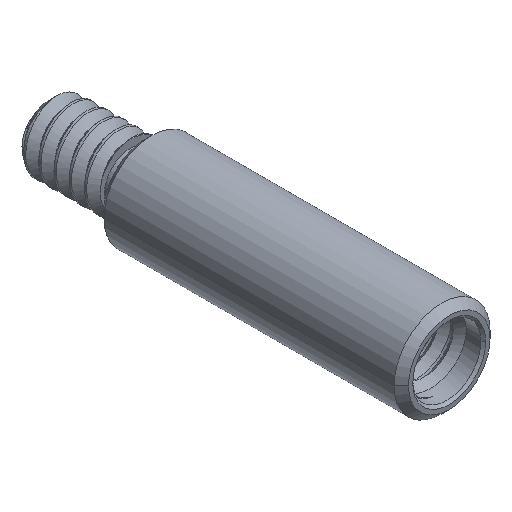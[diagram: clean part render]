
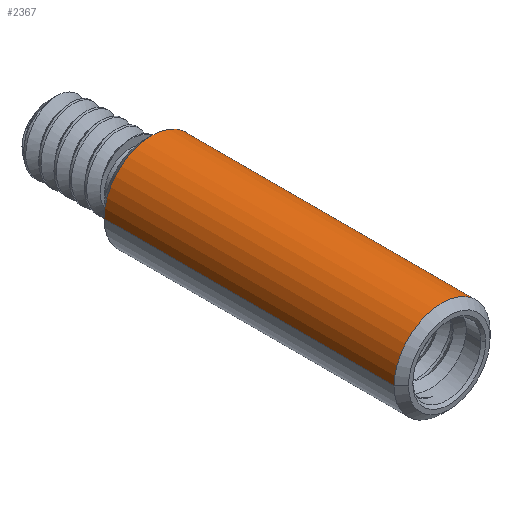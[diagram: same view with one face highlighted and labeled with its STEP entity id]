
A CAD part, isometric view. The second image highlights one B-rep face of the part: STEP entity #2367.
In plain terms, the highlighted cylindrical face has radius 2 mm (diameter 4 mm), a partial arc.
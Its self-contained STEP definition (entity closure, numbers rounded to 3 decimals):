
#34=DIRECTION('',(0.,1.,0.));
#35=VECTOR('',#34,12.1);
#36=CARTESIAN_POINT('',(2.,-6.05,
0.));
#37=LINE('',#36,#35);
#43=CARTESIAN_POINT('',(0.,-6.05,0.));
#44=DIRECTION('',(0.,-1.,0.));
#45=DIRECTION('',(1.,0.,0.));
#46=AXIS2_PLACEMENT_3D('',#43,#44,#45);
#48=DIRECTION('',(0.,1.,0.));
#49=VECTOR('',#48,12.1);
#50=CARTESIAN_POINT('',(-2.,-6.05,
0.));
#51=LINE('',#50,#49);
#52=CARTESIAN_POINT('',(0.,6.05,0.));
#53=DIRECTION('',(0.,1.,0.));
#54=DIRECTION('',(-1.,0.,0.));
#55=AXIS2_PLACEMENT_3D('',#52,#53,#54);
#2170=CARTESIAN_POINT('',(2.,-6.05,0.));
#2171=CARTESIAN_POINT('',(-2.,-6.05,0.));
#2172=VERTEX_POINT('',#2170);
#2173=VERTEX_POINT('',#2171);
#2178=CARTESIAN_POINT('',(-2.,6.05,0.));
#2179=CARTESIAN_POINT('',(2.,6.05,0.));
#2180=VERTEX_POINT('',#2178);
#2181=VERTEX_POINT('',#2179);
#2355=CARTESIAN_POINT('',(0.,-6.35,0.));
#2356=DIRECTION('',(0.,1.,0.));
#2357=DIRECTION('',(1.,0.,0.));
#2358=AXIS2_PLACEMENT_3D('',#2355,#2356,#2357);
#2359=CYLINDRICAL_SURFACE('',#2358,2.);
#2360=ORIENTED_EDGE('',*,*,#2320,.T.);
#2361=ORIENTED_EDGE('',*,*,#2350,.T.);
#2363=ORIENTED_EDGE('',*,*,#2362,.T.);
#2364=ORIENTED_EDGE('',*,*,#2346,.F.);
#2365=EDGE_LOOP('',(#2360,#2361,#2363,#2364));
#2366=FACE_OUTER_BOUND('',#2365,.F.);
#2367=ADVANCED_FACE('',(#2366),#2359,.T.);
#47=CIRCLE('',#46,2.);
#56=CIRCLE('',#55,2.);
#2320=EDGE_CURVE('',#2172,#2173,#47,.T.);
#2346=EDGE_CURVE('',#2172,#2181,#37,.T.);
#2350=EDGE_CURVE('',#2173,#2180,#51,.T.);
#2362=EDGE_CURVE('',#2180,#2181,#56,.T.);
